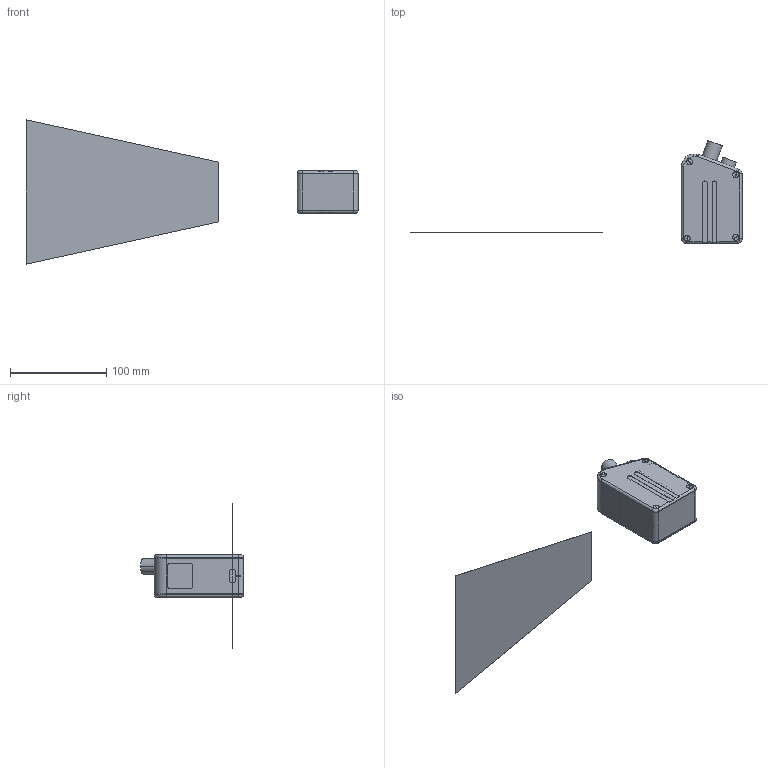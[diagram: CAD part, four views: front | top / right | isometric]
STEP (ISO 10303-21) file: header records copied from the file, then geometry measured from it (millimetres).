
FILE_DESCRIPTION (( 'STEP AP214' ), '1' );
FILE_NAME ('ÐÔ 627.70_200.000_ÑÁ ñêàíåð äëÿ ñàéòà.STEP', '2019-07-02T08:21:33', ( 'test' ), ( 'Ref' ), 'SwSTEP 2.0', 'SolidWorks 2015', '' );
FILE_SCHEMA (( 'AUTOMOTIVE_DESIGN' ));
Length unit declared in the file: millimetre
Products named in the file (13): Âèíò_Ì2õ4; Ðåçüáîâàÿ âòóëêà Ì6-6; Êðûøêà 627 â5 çåðêàëüíàÿ ïîñëåäíÿÿ; ÐÔ 627.70_200.000_ÑÁ ñêàíåð äëÿ ñàéòà; 砐錼 睯儰擯闃蠂 200; 性 625.75_ 袜觌彘赅_觏铒觇; Êðûøêà 627 - â5 êðûøêà áîêîâàÿ ïîñëåäíÿÿ 1; 栺樏鋋 26-26-2 擤; Âèíò_Ì3x10 â ïîòàé; Êîðïóñ 627 - 75-50 ñ ïàçîì ïîñëåäíåå; RF627_80_017(1) ýëåêòðîíèêà; 栺樏鋋 14-6-2; Âèíò_Ì3x8 â ïîòàé
Assembly tree (24 placements, depth 2):
  ÐÔ 627.70_200.000_ÑÁ ñêàíåð äëÿ ñàéòà
    Êîðïóñ 627 - 75-50 ñ ïàçîì ïîñëåäíåå
    Êðûøêà 627 - â5 êðûøêà áîêîâàÿ ïîñëåäíÿÿ 1
    Êðûøêà 627 â5 çåðêàëüíàÿ ïîñëåäíÿÿ
    Ðåçüáîâàÿ âòóëêà Ì6-6  x4
    性 625.75_ 袜觌彘赅_觏铒觇
    Âèíò_Ì2õ4  x4
    Âèíò_Ì3x10 â ïîòàé  x6
    栺樏鋋 14-6-2
    栺樏鋋 26-26-2 擤
    Âèíò_Ì3x8 â ïîòàé  x2
    RF627_80_017(1) ýëåêòðîíèêà
    砐錼 睯儰擯闃蠂 200
Bounding box: 345 x 107.19 x 150 mm (x, y, z)
Volume: 73476.5 mm3; surface area: 103307.2 mm2
Topology: 25 solids, 30 shells, 1106 faces, 2927 edges, 1900 vertices
Faces by surface type: plane 580, cylinder 300, cone 112, bspline 84, torus 30
Entity records: 33943 total; most frequent: CARTESIAN_POINT 9692, ORIENTED_EDGE 4758, DIRECTION 4505, EDGE_CURVE 2401, VERTEX_POINT 1576, VECTOR 1571, LINE 1571, AXIS2_PLACEMENT_3D 1467
